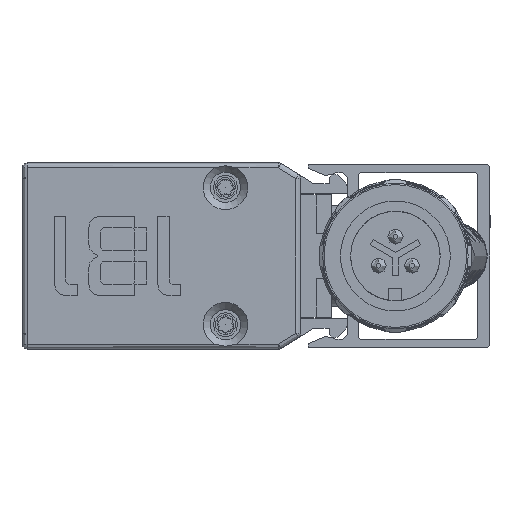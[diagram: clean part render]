
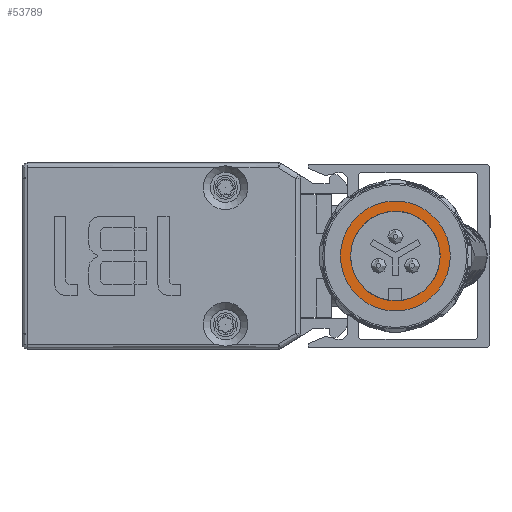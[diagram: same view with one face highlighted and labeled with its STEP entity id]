
A CAD part, left-side view. The second image highlights one B-rep face of the part: STEP entity #53789.
In plain terms, the highlighted planar face has unit normal (-1, 0, 0).
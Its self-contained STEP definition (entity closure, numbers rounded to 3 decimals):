
#1359 = AXIS2_PLACEMENT_3D ( 'NONE', #35400, #54233, #45416 ) ;
#1862 = CIRCLE ( 'NONE', #9285, 4.4 ) ;
#2704 = CARTESIAN_POINT ( 'NONE',  ( -6.5, 0., 0. ) ) ;
#5696 = AXIS2_PLACEMENT_3D ( 'NONE', #37639, #55596, #51193 ) ;
#7612 = DIRECTION ( 'NONE',  ( -1., 0., 0. ) ) ;
#9285 = AXIS2_PLACEMENT_3D ( 'NONE', #16964, #7612, #34794 ) ;
#9302 = CIRCLE ( 'NONE', #32617, 4.4 ) ;
#9593 = VERTEX_POINT ( 'NONE', #15443 ) ;
#10109 = EDGE_LOOP ( 'NONE', ( #29232 ) ) ;
#11845 = EDGE_LOOP ( 'NONE', ( #39180, #30749 ) ) ;
#13762 = EDGE_CURVE ( 'NONE', #52059, #9593, #9302, .T. ) ;
#15443 = CARTESIAN_POINT ( 'NONE',  ( -6.5, 0., -4.4 ) ) ;
#16964 = CARTESIAN_POINT ( 'NONE',  ( -6.5, 0., 0. ) ) ;
#18486 = FACE_BOUND ( 'NONE', #11845, .T. ) ;
#20138 = CARTESIAN_POINT ( 'NONE',  ( -6.5, -5.4, 0. ) ) ;
#20824 = EDGE_CURVE ( 'NONE', #9593, #52059, #1862, .T. ) ;
#29232 = ORIENTED_EDGE ( 'NONE', *, *, #51629, .F. ) ;
#30749 = ORIENTED_EDGE ( 'NONE', *, *, #13762, .F. ) ;
#30884 = CIRCLE ( 'NONE', #5696, 5.4 ) ;
#32617 = AXIS2_PLACEMENT_3D ( 'NONE', #2704, #56054, #51661 ) ;
#33120 = CARTESIAN_POINT ( 'NONE',  ( -6.5, 0., 4.4 ) ) ;
#34794 = DIRECTION ( 'NONE',  ( 0., 0., -1. ) ) ;
#35400 = CARTESIAN_POINT ( 'NONE',  ( -6.5, 0., 0. ) ) ;
#37639 = CARTESIAN_POINT ( 'NONE',  ( -6.5, 0., 0. ) ) ;
#39180 = ORIENTED_EDGE ( 'NONE', *, *, #20824, .F. ) ;
#40679 = PLANE ( 'NONE',  #1359 ) ;
#44228 = FACE_OUTER_BOUND ( 'NONE', #10109, .T. ) ;
#45416 = DIRECTION ( 'NONE',  ( 0., 1., 0. ) ) ;
#51193 = DIRECTION ( 'NONE',  ( 0., -1., 0. ) ) ;
#51629 = EDGE_CURVE ( 'NONE', #56016, #56016, #30884, .T. ) ;
#51661 = DIRECTION ( 'NONE',  ( 0., 0., 1. ) ) ;
#52059 = VERTEX_POINT ( 'NONE', #33120 ) ;
#53789 = ADVANCED_FACE ( 'NONE', ( #18486, #44228 ), #40679, .F. ) ;
#54233 = DIRECTION ( 'NONE',  ( 1., 0., 0. ) ) ;
#55596 = DIRECTION ( 'NONE',  ( 1., 0., 0. ) ) ;
#56016 = VERTEX_POINT ( 'NONE', #20138 ) ;
#56054 = DIRECTION ( 'NONE',  ( -1., 0., 0. ) ) ;
